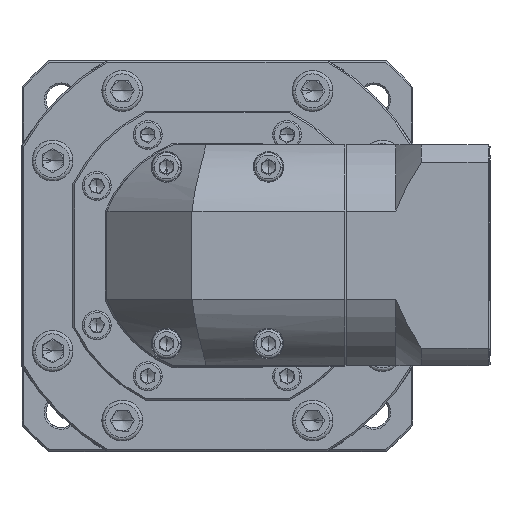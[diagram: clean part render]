
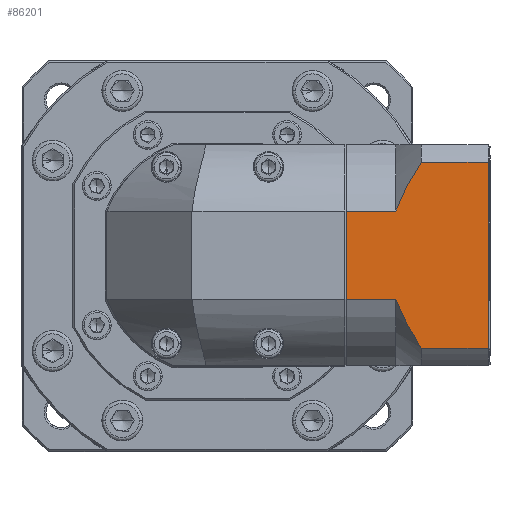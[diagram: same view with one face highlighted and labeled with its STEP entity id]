
A CAD part, top view. The second image highlights one B-rep face of the part: STEP entity #86201.
In plain terms, the highlighted planar face has unit normal (0, 0, 1).
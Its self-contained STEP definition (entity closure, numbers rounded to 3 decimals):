
#4 = DIRECTION ( 'NONE',  ( 1., 0., 0. ) ) ;
#2875 = CARTESIAN_POINT ( 'NONE',  ( 104.092, 126.339, 24.619 ) ) ;
#4646 = CARTESIAN_POINT ( 'NONE',  ( 110.65, 138.197, 24.619 ) ) ;
#6023 = VERTEX_POINT ( 'NONE', #4646 ) ;
#7987 = ORIENTED_EDGE ( 'NONE', *, *, #116222, .T. ) ;
#9090 = CARTESIAN_POINT ( 'NONE',  ( 103.15, 123.801, 24.619 ) ) ;
#10768 = VECTOR ( 'NONE', #19942, 1000. ) ;
#13558 = ORIENTED_EDGE ( 'NONE', *, *, #96800, .F. ) ;
#14286 = LINE ( 'NONE', #95623, #10768 ) ;
#14916 = CARTESIAN_POINT ( 'NONE',  ( 105.291, 92.8, 24.619 ) ) ;
#15842 = CARTESIAN_POINT ( 'NONE',  ( 103.15, 97.82, 24.619 ) ) ;
#19942 = DIRECTION ( 'NONE',  ( 0., -1., 0. ) ) ;
#20532 = CARTESIAN_POINT ( 'NONE',  ( 103.15, 138.197, 24.619 ) ) ;
#21046 = CARTESIAN_POINT ( 'NONE',  ( 109.202, 135.908, 24.619 ) ) ;
#24581 = CARTESIAN_POINT ( 'NONE',  ( 88.65, 97.82, 24.619 ) ) ;
#26502 = VERTEX_POINT ( 'NONE', #48320 ) ;
#26533 = ORIENTED_EDGE ( 'NONE', *, *, #122883, .F. ) ;
#29155 = VECTOR ( 'NONE', #44292, 1000. ) ;
#30384 = EDGE_LOOP ( 'NONE', ( #13558, #79495, #98314, #7987, #88512, #81958, #26533, #57121 ) ) ;
#32845 = CARTESIAN_POINT ( 'NONE',  ( 110.65, 138.197, 24.619 ) ) ;
#32859 = DIRECTION ( 'NONE',  ( 0., 1., 0. ) ) ;
#35822 = CARTESIAN_POINT ( 'NONE',  ( 104.167, 95.278, 24.619 ) ) ;
#39045 = CARTESIAN_POINT ( 'NONE',  ( 130.85, 143.311, 24.619 ) ) ;
#41044 = AXIS2_PLACEMENT_3D ( 'NONE', #39045, #123921, #93377 ) ;
#41744 = CARTESIAN_POINT ( 'NONE',  ( 130.35, 138.197, 24.619 ) ) ;
#42798 = CARTESIAN_POINT ( 'NONE',  ( 107.147, 132.387, 24.619 ) ) ;
#44292 = DIRECTION ( 'NONE',  ( -1., 0., 0. ) ) ;
#44657 = CARTESIAN_POINT ( 'NONE',  ( 103.15, 123.801, 24.619 ) ) ;
#46697 = CARTESIAN_POINT ( 'NONE',  ( 103.641, 96.539, 24.619 ) ) ;
#48320 = CARTESIAN_POINT ( 'NONE',  ( 88.65, 123.801, 24.619 ) ) ;
#50727 = VERTEX_POINT ( 'NONE', #97853 ) ;
#55103 = CARTESIAN_POINT ( 'NONE',  ( 105.237, 128.791, 24.619 ) ) ;
#57121 = ORIENTED_EDGE ( 'NONE', *, *, #75441, .T. ) ;
#61226 = VECTOR ( 'NONE', #130873, 1000. ) ;
#64120 = EDGE_CURVE ( 'NONE', #26502, #97730, #14286, .T. ) ;
#65510 = VECTOR ( 'NONE', #80293, 1000. ) ;
#65570 = EDGE_CURVE ( 'NONE', #26502, #135827, #95379, .T. ) ;
#66179 = B_SPLINE_CURVE_WITH_KNOTS ( 'NONE', 3,
 ( #15842, #101626, #46697, #35822, #103034, #14916, #112147, #69575, #70512, #81518 ),
 .UNSPECIFIED., .F., .F.,
 ( 4, 2, 2, 2, 4 ),
 ( 0.101, 0.103, 0.105, 0.109, 0.117 ),
 .UNSPECIFIED. ) ;
#69575 = CARTESIAN_POINT ( 'NONE',  ( 107.801, 88.007, 24.619 ) ) ;
#70512 = CARTESIAN_POINT ( 'NONE',  ( 109.189, 85.693, 24.619 ) ) ;
#72812 = VECTOR ( 'NONE', #4, 1000. ) ;
#75441 = EDGE_CURVE ( 'NONE', #133989, #91451, #66179, .T. ) ;
#76237 = CARTESIAN_POINT ( 'NONE',  ( 103.15, 83.425, 24.619 ) ) ;
#76621 = CARTESIAN_POINT ( 'NONE',  ( 103.15, 97.82, 24.619 ) ) ;
#79495 = ORIENTED_EDGE ( 'NONE', *, *, #133853, .T. ) ;
#80293 = DIRECTION ( 'NONE',  ( -1., 0., 0. ) ) ;
#81518 = CARTESIAN_POINT ( 'NONE',  ( 110.65, 83.425, 24.619 ) ) ;
#81958 = ORIENTED_EDGE ( 'NONE', *, *, #64120, .T. ) ;
#86201 = ADVANCED_FACE ( 'NONE', ( #134572 ), #134450, .F. ) ;
#87024 = LINE ( 'NONE', #76237, #29155 ) ;
#88512 = ORIENTED_EDGE ( 'NONE', *, *, #65570, .F. ) ;
#91451 = VERTEX_POINT ( 'NONE', #102224 ) ;
#93377 = DIRECTION ( 'NONE',  ( 1., 0., 0. ) ) ;
#95379 = LINE ( 'NONE', #121322, #61226 ) ;
#95623 = CARTESIAN_POINT ( 'NONE',  ( 88.65, 143.311, 24.619 ) ) ;
#96800 = EDGE_CURVE ( 'NONE', #50727, #91451, #87024, .T. ) ;
#97011 = B_SPLINE_CURVE_WITH_KNOTS ( 'NONE', 3,
 ( #32845, #120130, #21046, #97256, #42798, #55103, #2875, #44657 ),
 .UNSPECIFIED., .F., .F.,
 ( 4, 2, 2, 4 ),
 ( 0.058, 0.062, 0.066, 0.074 ),
 .UNSPECIFIED. ) ;
#97256 = CARTESIAN_POINT ( 'NONE',  ( 107.817, 133.573, 24.619 ) ) ;
#97730 = VERTEX_POINT ( 'NONE', #24581 ) ;
#97853 = CARTESIAN_POINT ( 'NONE',  ( 130.35, 83.425, 24.619 ) ) ;
#98314 = ORIENTED_EDGE ( 'NONE', *, *, #135917, .F. ) ;
#101626 = CARTESIAN_POINT ( 'NONE',  ( 103.389, 97.178, 24.619 ) ) ;
#101837 = CARTESIAN_POINT ( 'NONE',  ( 103.15, 97.82, 24.619 ) ) ;
#102224 = CARTESIAN_POINT ( 'NONE',  ( 110.65, 83.425, 24.619 ) ) ;
#103034 = CARTESIAN_POINT ( 'NONE',  ( 104.441, 94.654, 24.619 ) ) ;
#103823 = VECTOR ( 'NONE', #32859, 1000. ) ;
#106043 = VERTEX_POINT ( 'NONE', #41744 ) ;
#108853 = LINE ( 'NONE', #129708, #103823 ) ;
#112147 = CARTESIAN_POINT ( 'NONE',  ( 105.896, 91.588, 24.619 ) ) ;
#116222 = EDGE_CURVE ( 'NONE', #6023, #135827, #97011, .T. ) ;
#120130 = CARTESIAN_POINT ( 'NONE',  ( 109.917, 137.059, 24.619 ) ) ;
#121322 = CARTESIAN_POINT ( 'NONE',  ( 103.15, 123.801, 24.619 ) ) ;
#122883 = EDGE_CURVE ( 'NONE', #133989, #97730, #128730, .T. ) ;
#123921 = DIRECTION ( 'NONE',  ( 0., 0., -1. ) ) ;
#128730 = LINE ( 'NONE', #101837, #65510 ) ;
#129708 = CARTESIAN_POINT ( 'NONE',  ( 130.35, 143.311, 24.619 ) ) ;
#130873 = DIRECTION ( 'NONE',  ( 1., 0., 0. ) ) ;
#133853 = EDGE_CURVE ( 'NONE', #50727, #106043, #108853, .T. ) ;
#133989 = VERTEX_POINT ( 'NONE', #76621 ) ;
#134362 = LINE ( 'NONE', #20532, #72812 ) ;
#134450 = PLANE ( 'NONE',  #41044 ) ;
#134572 = FACE_OUTER_BOUND ( 'NONE', #30384, .T. ) ;
#135827 = VERTEX_POINT ( 'NONE', #9090 ) ;
#135917 = EDGE_CURVE ( 'NONE', #6023, #106043, #134362, .T. ) ;
